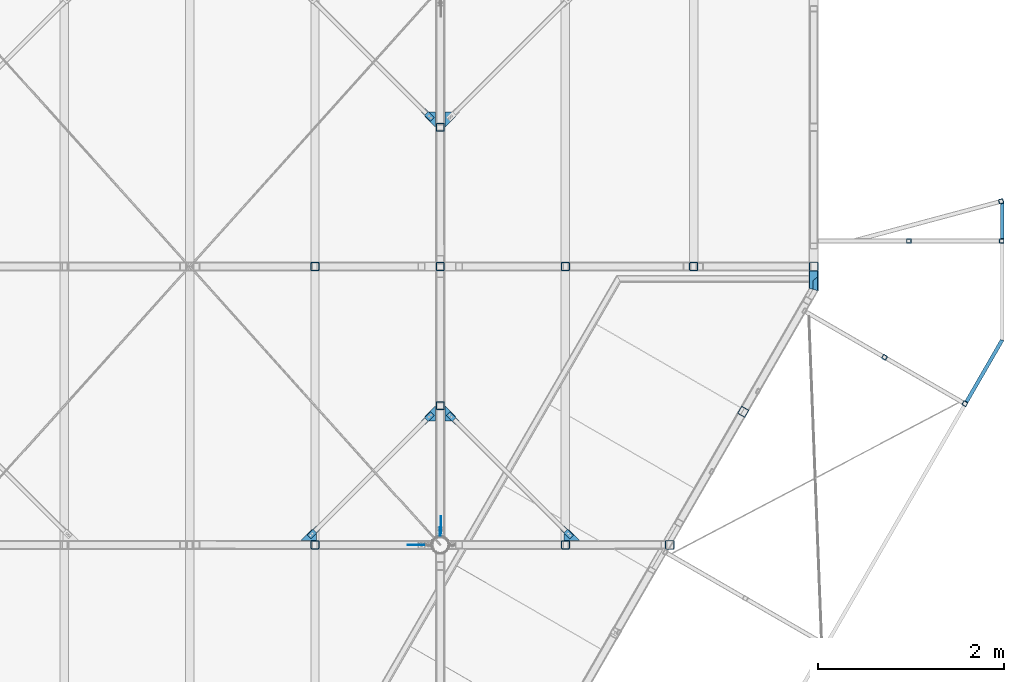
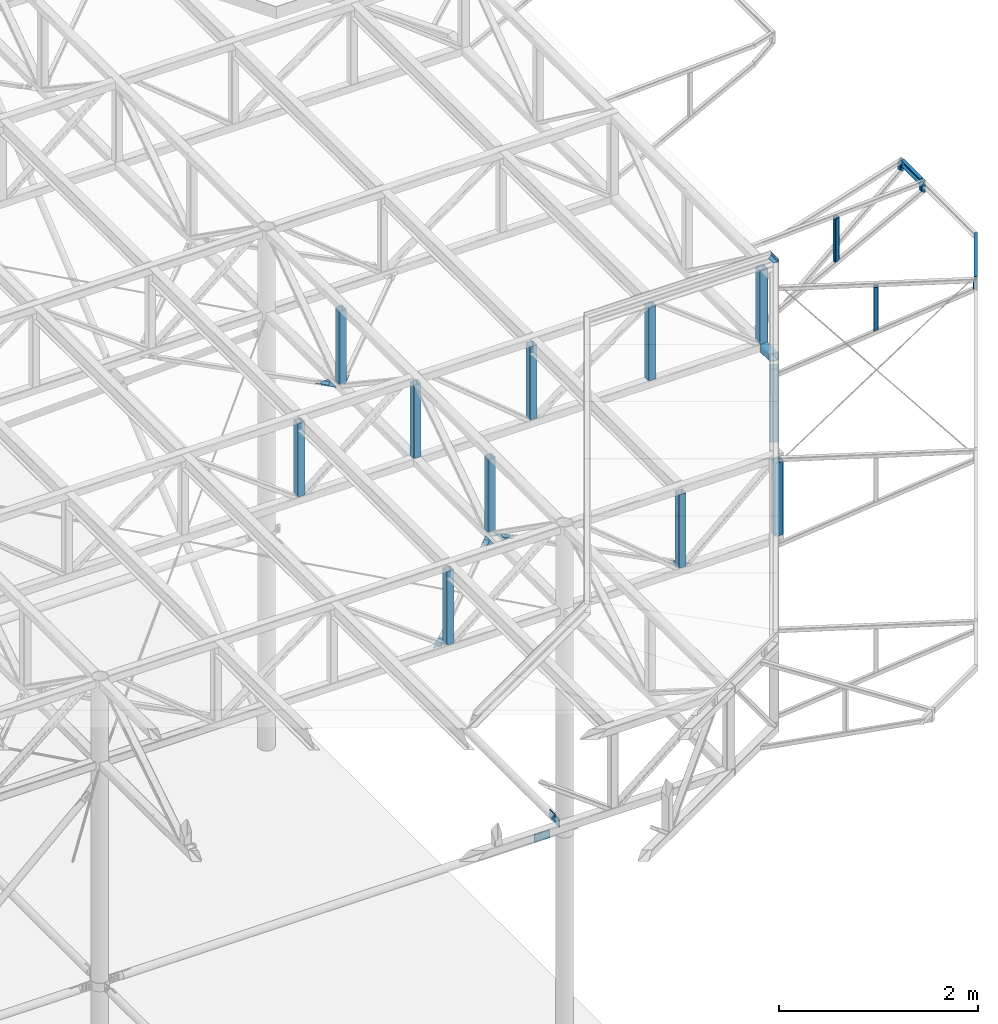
# One storey, part 83 of 132: 34 discrete accessories, 15 elements without a shape of their own.
"""IFC2X3 building model written with IfcOpenShell, lengths in millimetres."""

from ifc_helpers import new_model, si_unit, frame, origin_with_axes, origin_2d_with_axis, place, context, subcontext, project, spatial, polyline, hollow_rectangle, l_section, u_section, outline, extrude, clip, halfspace, material, type_object, element, aggregate, save


model = new_model("IFC2X3")

# Units and contexts
model_context = context("Model", 3, precision=1e-05, world=origin_with_axes())
body_context = subcontext(model_context, "Body", "Model", "MODEL_VIEW")
ifc_project = project(units=[si_unit("LENGTHUNIT", "METRE", prefix="MILLI"), si_unit("AREAUNIT", "SQUARE_METRE"), si_unit("VOLUMEUNIT", "CUBIC_METRE"), si_unit("MASSUNIT", "GRAM", prefix="KILO"), si_unit("TIMEUNIT", "SECOND"), si_unit("PLANEANGLEUNIT", "RADIAN"), si_unit("SOLIDANGLEUNIT", "STERADIAN"), si_unit("THERMODYNAMICTEMPERATUREUNIT", "DEGREE_CELSIUS"), si_unit("LUMINOUSINTENSITYUNIT", "LUMEN")], contexts=[model_context])

# Site, building, storey
site_placement = place(None, origin_with_axes())
site = spatial("IfcSite", under=ifc_project, at=site_placement, Name="Budowa", CompositionType="ELEMENT")
building_placement = place(site_placement, origin_with_axes())
building = spatial("IfcBuilding", under=site, at=building_placement, Name="Undefined", CompositionType="ELEMENT")
storey_placement = place(building_placement, origin_with_axes())
storey = spatial("IfcBuildingStorey", under=building, at=storey_placement, Name="Undefined", CompositionType="ELEMENT", Elevation=0.0)

# Assembly, discrete accessory
assembly_1_placement = place(storey_placement, origin_with_axes())
assembly_1 = element("IfcElementAssembly", 1, at=assembly_1_placement, inside=storey, Name="Steel Assembly", AssemblyPlace="NOTDEFINED", PredefinedType="RIGID_FRAME")
ifc_material = material(Name="STEEL/S235")
discrete_accessory_type_1 = type_object("IfcDiscreteAccessoryType", Name="BLACHA")
discrete_accessory_1_placement = place(assembly_1_placement, frame((20232.9999969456, 6127.90790543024, 10116.0003779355), z_axis=(-1.0, 0.0, 0.0), x_axis=(0.0, 1.0, 0.0)))
discrete_accessory_1 = element("IfcDiscreteAccessory", 2, at=discrete_accessory_1_placement, type_object=discrete_accessory_type_1, material=ifc_material, Name="BLACHA", ObjectType="BL8*100", context=body_context, shape_type="SweptSolid", body=[
    extrude(outline(polyline([(0.0, 50.0), (180.0, 50.0), (180.0, -50.0), (0.0, -50.0), (0.0, 50.0)])), frame((0.0, 0.0, -4.0), z_axis=(0.0, 0.0, 1.0), x_axis=(1.0, 0.0, 0.0)), (0.0, 0.0, 1.0), 8.0),
])
aggregate(assembly_1, [discrete_accessory_1])

assembly_2_placement = place(storey_placement, origin_with_axes())
assembly_2 = element("IfcElementAssembly", 3, at=assembly_2_placement, inside=storey, Name="Steel Assembly", AssemblyPlace="NOTDEFINED", PredefinedType="RIGID_FRAME")
discrete_accessory_2_placement = place(assembly_2_placement, frame((20224.9999969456, 6097.99564346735, 10166.0003762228), z_axis=(1.0, 0.0, 0.0), x_axis=(0.0, 0.0, -1.0)))
discrete_accessory_2 = element("IfcDiscreteAccessory", 4, at=discrete_accessory_2_placement, type_object=discrete_accessory_type_1, material=ifc_material, Name="BLACHA", ObjectType="BL8*90", context=body_context, shape_type="SweptSolid", body=[
    extrude(outline(polyline([(0.0, 0.0), (100.0, 0.0), (100.0, 89.9122619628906), (0.0, 89.9122619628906), (0.0, 0.0)])), frame((0.0, 0.0, -4.0), z_axis=(0.0, 0.0, 1.0), x_axis=(1.0, 0.0, 0.0)), (0.0, 0.0, 1.0), 8.0),
])
aggregate(assembly_2, [discrete_accessory_2])

assembly_3_placement = place(storey_placement, origin_with_axes())
assembly_3 = element("IfcElementAssembly", 5, at=assembly_3_placement, inside=storey, Name="Steel Assembly", AssemblyPlace="NOTDEFINED", PredefinedType="RIGID_FRAME")
discrete_accessory_3_placement = place(assembly_3_placement, frame((20051.8633056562, 5997.99999945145, 10116.0003779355), z_axis=(0.0, 1.0, 0.0), x_axis=(-1.0, 0.0, 0.0)))
discrete_accessory_3 = element("IfcDiscreteAccessory", 6, at=discrete_accessory_3_placement, type_object=discrete_accessory_type_1, material=ifc_material, Name="BLACHA", ObjectType="BL8*100", context=body_context, shape_type="SweptSolid", body=[
    extrude(outline(polyline([(180.0, -50.0), (0.0, -50.0), (0.0, 50.0), (180.0, 50.0), (180.0, -50.0)])), frame((0.0, 0.0, -4.0), z_axis=(0.0, 0.0, 1.0), x_axis=(1.0, 0.0, 0.0)), (0.0, 0.0, 1.0), 8.0),
])
aggregate(assembly_3, [discrete_accessory_3])

assembly_4_placement = place(storey_placement, origin_with_axes())
assembly_4 = element("IfcElementAssembly", 7, at=assembly_4_placement, inside=storey, Name="Steel Assembly", AssemblyPlace="NOTDEFINED", PredefinedType="RIGID_FRAME")
discrete_accessory_4_placement = place(assembly_4_placement, frame((21519.3786419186, 6162.99495131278, 12830.0), z_axis=(0.0, 0.0, 1.0), x_axis=(0.707106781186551, -0.707106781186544, 0.0)))
discrete_accessory_4 = element("IfcDiscreteAccessory", 8, at=discrete_accessory_4_placement, type_object=discrete_accessory_type_1, material=ifc_material, Name="BLACHA", ObjectType="BL6*60", context=body_context, shape_type="SweptSolid", body=[
    extrude(outline(polyline([(0.0, 0.0), (139.99999999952, -6.2755134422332e-10), (139.99999999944, 59.9999999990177), (0.0, 60.0), (-8.00355337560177e-11, 54.9999999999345), (49.9999999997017, 54.9999999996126), (49.9999999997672, 4.99999999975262), (-8.73114913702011e-11, 5.00000000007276), (0.0, 0.0)])), frame((0.0, 0.0, -3.0), z_axis=(0.0, 0.0, 1.0), x_axis=(1.0, 0.0, 0.0)), (0.0, 0.0, 1.0), 6.0),
])

assembly_5_placement = place(storey_placement, origin_with_axes())
assembly_5 = element("IfcElementAssembly", 9, at=assembly_5_placement, inside=storey, Name="Steel Assembly", AssemblyPlace="NOTDEFINED", PredefinedType="RIGID_FRAME")
discrete_accessory_5_placement = place(assembly_5_placement, frame((21558.2695167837, 6050.00000004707, 12824.0), z_axis=(0.0, 0.0, 1.0), x_axis=(1.0, 0.0, 0.0)))
discrete_accessory_5 = element("IfcDiscreteAccessory", 10, at=discrete_accessory_5_placement, type_object=discrete_accessory_type_1, material=ifc_material, Name="BLACHA", ObjectType="BL6*117", context=body_context, shape_type="SweptSolid", body=[
    extrude(outline(polyline([(0.0, 0.0), (166.027954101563, 0.0), (49.4974746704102, 116.530487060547), (0.0, 67.0330123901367), (0.0, 0.0)])), frame((0.0, 0.0, -3.0), z_axis=(0.0, 0.0, 1.0), x_axis=(1.0, 0.0, 0.0)), (0.0, 0.0, 1.0), 6.0),
])

# Discrete accessory
discrete_accessory_6_placement = place(assembly_4_placement, frame((20430.4213581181, 7336.80504885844, 12830.0), z_axis=(0.0, 0.0, 1.0), x_axis=(-0.707106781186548, 0.707106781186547, 0.0)))
discrete_accessory_6 = element("IfcDiscreteAccessory", 11, at=discrete_accessory_6_placement, type_object=discrete_accessory_type_1, material=ifc_material, Name="BLACHA", ObjectType="BL6*60", context=body_context, shape_type="SweptSolid", body=[
    extrude(outline(polyline([(0.0, 0.0), (139.99999999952, -6.2755134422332e-10), (139.99999999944, 59.9999999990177), (0.0, 60.0), (-8.00355337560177e-11, 54.9999999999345), (49.9999999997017, 54.9999999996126), (49.9999999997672, 4.99999999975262), (-8.73114913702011e-11, 5.00000000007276), (0.0, 0.0)])), frame((0.0, 0.0, -3.0), z_axis=(0.0, 0.0, 1.0), x_axis=(1.0, 0.0, 0.0)), (0.0, 0.0, 1.0), 6.0),
])

aggregate(assembly_4, [discrete_accessory_4, discrete_accessory_6])

# Assembly, discrete accessory
assembly_6_placement = place(storey_placement, origin_with_axes())
assembly_6 = element("IfcElementAssembly", 12, at=assembly_6_placement, inside=storey, Name="Steel Assembly", AssemblyPlace="NOTDEFINED", PredefinedType="RIGID_FRAME")
discrete_accessory_7_placement = place(assembly_6_placement, frame((20275.0, 7499.2974747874, 12824.0), z_axis=(0.0, 0.0, 1.0), x_axis=(0.0, -1.0, 0.0)))
discrete_accessory_7 = element("IfcDiscreteAccessory", 13, at=discrete_accessory_7_placement, type_object=discrete_accessory_type_1, material=ifc_material, Name="BLACHA", ObjectType="BL6*117", context=body_context, shape_type="SweptSolid", body=[
    extrude(outline(polyline([(0.0, 0.0), (166.027954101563, 0.0), (166.027954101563, 67.0330123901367), (116.530487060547, 116.530487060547), (0.0, 0.0)])), frame((0.0, 0.0, -3.0), z_axis=(0.0, 0.0, 1.0), x_axis=(1.0, 0.0, 0.0)), (0.0, 0.0, 1.0), 6.0),
])

assembly_7_placement = place(storey_placement, origin_with_axes())
assembly_7 = element("IfcElementAssembly", 14, at=assembly_7_placement, inside=storey, Name="Steel Assembly", AssemblyPlace="NOTDEFINED", PredefinedType="RIGID_FRAME")
discrete_accessory_8_placement = place(assembly_7_placement, frame((18888.1949511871, 6205.42135816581, 12830.0), z_axis=(0.0, 0.0, 1.0), x_axis=(-0.70710678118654, -0.707106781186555, 0.0)))
discrete_accessory_8 = element("IfcDiscreteAccessory", 15, at=discrete_accessory_8_placement, type_object=discrete_accessory_type_1, material=ifc_material, Name="BLACHA", ObjectType="BL6*60", context=body_context, shape_type="SweptSolid", body=[
    extrude(outline(polyline([(0.0, 0.0), (139.99999999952, -6.2755134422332e-10), (139.99999999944, 59.9999999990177), (0.0, 60.0), (-8.00355337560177e-11, 54.9999999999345), (49.9999999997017, 54.9999999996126), (49.9999999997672, 4.99999999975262), (-8.73114913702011e-11, 5.00000000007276), (0.0, 0.0)])), frame((0.0, 0.0, -3.0), z_axis=(0.0, 0.0, 1.0), x_axis=(1.0, 0.0, 0.0)), (0.0, 0.0, 1.0), 6.0),
])

assembly_8_placement = place(storey_placement, origin_with_axes())
assembly_8 = element("IfcElementAssembly", 16, at=assembly_8_placement, inside=storey, Name="Steel Assembly", AssemblyPlace="NOTDEFINED", PredefinedType="RIGID_FRAME")
discrete_accessory_9_placement = place(assembly_8_placement, frame((18725.7025252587, 6050.00000004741, 12824.0), z_axis=(0.0, 0.0, 1.0), x_axis=(1.0, 0.0, 0.0)))
discrete_accessory_9 = element("IfcDiscreteAccessory", 17, at=discrete_accessory_9_placement, type_object=discrete_accessory_type_1, material=ifc_material, Name="BLACHA", ObjectType="BL6*117", context=body_context, shape_type="SweptSolid", body=[
    extrude(outline(polyline([(0.0, 0.0), (166.027954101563, 0.0), (166.027954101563, 67.0330123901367), (116.530487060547, 116.530487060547), (0.0, 0.0)])), frame((0.0, 0.0, -3.0), z_axis=(0.0, 0.0, 1.0), x_axis=(1.0, 0.0, 0.0)), (0.0, 0.0, 1.0), 6.0),
])

# Discrete accessory
discrete_accessory_10_placement = place(assembly_7_placement, frame((20062.0050487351, 7294.37864196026, 12830.0), z_axis=(0.0, 0.0, 1.0), x_axis=(0.707106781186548, 0.707106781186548, 0.0)))
discrete_accessory_10 = element("IfcDiscreteAccessory", 18, at=discrete_accessory_10_placement, type_object=discrete_accessory_type_1, material=ifc_material, Name="BLACHA", ObjectType="BL6*60", context=body_context, shape_type="SweptSolid", body=[
    extrude(outline(polyline([(0.0, 0.0), (139.99999999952, -6.2755134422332e-10), (139.99999999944, 59.9999999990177), (0.0, 60.0), (-8.00355337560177e-11, 54.9999999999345), (49.9999999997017, 54.9999999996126), (49.9999999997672, 4.99999999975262), (-8.73114913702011e-11, 5.00000000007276), (0.0, 0.0)])), frame((0.0, 0.0, -3.0), z_axis=(0.0, 0.0, 1.0), x_axis=(1.0, 0.0, 0.0)), (0.0, 0.0, 1.0), 6.0),
])

aggregate(assembly_7, [discrete_accessory_8, discrete_accessory_10])

discrete_accessory_11_placement = place(assembly_6_placement, frame((20175.0, 7333.26951682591, 12824.0), z_axis=(0.0, 0.0, 1.0), x_axis=(0.0, 1.0, 0.0)))
discrete_accessory_11 = element("IfcDiscreteAccessory", 19, at=discrete_accessory_11_placement, type_object=discrete_accessory_type_1, material=ifc_material, Name="BLACHA", ObjectType="BL6*117", context=body_context, shape_type="SweptSolid", body=[
    extrude(outline(polyline([(0.0, 0.0), (166.027954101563, 0.0), (49.4974746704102, 116.530487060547), (0.0, 67.0330123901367), (0.0, 0.0)])), frame((0.0, 0.0, -3.0), z_axis=(0.0, 0.0, 1.0), x_axis=(1.0, 0.0, 0.0)), (0.0, 0.0, 1.0), 6.0),
])

discrete_accessory_12_placement = place(assembly_6_placement, frame((20275.0, 10666.5304833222, 12824.0), z_axis=(0.0, 0.0, 1.0), x_axis=(0.0, -1.0, 0.0)))
discrete_accessory_12 = element("IfcDiscreteAccessory", 20, at=discrete_accessory_12_placement, type_object=discrete_accessory_type_1, material=ifc_material, Name="BLACHA", ObjectType="BL6*117", context=body_context, shape_type="SweptSolid", body=[
    extrude(outline(polyline([(0.0, 0.0), (166.027954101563, 0.0), (49.4974746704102, 116.530487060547), (0.0, 67.0330123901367), (0.0, 0.0)])), frame((0.0, 0.0, -3.0), z_axis=(0.0, 0.0, 1.0), x_axis=(1.0, 0.0, 0.0)), (0.0, 0.0, 1.0), 6.0),
])

# Assembly, discrete accessory
assembly_9_placement = place(storey_placement, origin_with_axes())
assembly_9 = element("IfcElementAssembly", 21, at=assembly_9_placement, inside=storey, Name="Steel Assembly", AssemblyPlace="NOTDEFINED", PredefinedType="RIGID_FRAME")
discrete_accessory_13_placement = place(assembly_9_placement, frame((20019.5786418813, 10662.9949512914, 12830.0), z_axis=(0.0, 0.0, 1.0), x_axis=(0.707106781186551, -0.707106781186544, 0.0)))
discrete_accessory_13 = element("IfcDiscreteAccessory", 22, at=discrete_accessory_13_placement, type_object=discrete_accessory_type_1, material=ifc_material, Name="BLACHA", ObjectType="BL6*60", context=body_context, shape_type="SweptSolid", body=[
    extrude(outline(polyline([(0.0, 0.0), (139.99999999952, -6.2755134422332e-10), (139.99999999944, 59.9999999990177), (0.0, 60.0), (-8.00355337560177e-11, 54.9999999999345), (49.9999999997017, 54.9999999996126), (49.9999999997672, 4.99999999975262), (-8.73114913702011e-11, 5.00000000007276), (0.0, 0.0)])), frame((0.0, 0.0, -3.0), z_axis=(0.0, 0.0, 1.0), x_axis=(1.0, 0.0, 0.0)), (0.0, 0.0, 1.0), 6.0),
])
aggregate(assembly_9, [discrete_accessory_13])

# Discrete accessory
discrete_accessory_14_placement = place(assembly_6_placement, frame((20175.0, 10500.5025253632, 12824.0), z_axis=(0.0, 0.0, 1.0), x_axis=(0.0, 1.0, 0.0)))
discrete_accessory_14 = element("IfcDiscreteAccessory", 23, at=discrete_accessory_14_placement, type_object=discrete_accessory_type_1, material=ifc_material, Name="BLACHA", ObjectType="BL6*117", context=body_context, shape_type="SweptSolid", body=[
    extrude(outline(polyline([(0.0, 0.0), (166.027954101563, 0.0), (166.027954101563, 67.0330123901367), (116.530487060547, 116.530487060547), (0.0, 0.0)])), frame((0.0, 0.0, -3.0), z_axis=(0.0, 0.0, 1.0), x_axis=(1.0, 0.0, 0.0)), (0.0, 0.0, 1.0), 6.0),
])

# Assembly, discrete accessory
assembly_10_placement = place(storey_placement, origin_with_axes())
assembly_10 = element("IfcElementAssembly", 24, at=assembly_10_placement, inside=storey, Name="Steel Assembly", AssemblyPlace="NOTDEFINED", PredefinedType="RIGID_FRAME")
discrete_accessory_type_2 = type_object("IfcDiscreteAccessoryType", Name="BEAM")
discrete_accessory_15_placement = place(assembly_10_placement, frame((24270.0003571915, 8737.71824982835, 14004.0), z_axis=(-1.0, 0.0, 0.0), x_axis=(0.0, 1.0, 0.0)))
discrete_accessory_15 = element("IfcDiscreteAccessory", 25, at=discrete_accessory_15_placement, type_object=discrete_accessory_type_2, material=ifc_material, Name="BEAM", ObjectType="L60*40*6", context=body_context, shape_type="Clipping", body=[
    clip(clip(extrude(l_section(Depth=60.0, Width=40.0, Thickness=6.0, FilletRadius=6.0, EdgeRadius=3.0, at=origin_2d_with_axis()), frame((166.650860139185, 0.0, 0.0), z_axis=(-1.0, 0.0, 0.0), x_axis=(0.0, -1.0, 0.0)), (0.0, 0.0, 1.0), 191.98), halfspace(frame((108.28175011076, 39.0, 30.0), z_axis=(-0.768221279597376, 0.0, -0.64018439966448), x_axis=(0.0, -1.0, 0.0)), True)), halfspace(frame((16.0774455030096, 0.0, 30.0000000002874), z_axis=(-0.96592383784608, 0.0, 0.258826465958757), x_axis=(0.0, -1.0, 0.0)), False)),
])
aggregate(assembly_10, [discrete_accessory_15])

# Assembly, discrete accessories
assembly_11_placement = place(storey_placement, origin_with_axes())
assembly_11 = element("IfcElementAssembly", 26, at=assembly_11_placement, inside=storey, Name="Steel Assembly", AssemblyPlace="NOTDEFINED", PredefinedType="RIGID_FRAME")
discrete_accessory_16_placement = place(assembly_11_placement, frame((26280.0003814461, 8900.11302250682, 13945.0052016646), z_axis=(0.0, 0.00322921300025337, -0.999994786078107), x_axis=(0.0, 0.999994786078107, 0.00322921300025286)))
discrete_accessory_16 = element("IfcDiscreteAccessory", 27, at=discrete_accessory_16_placement, type_object=discrete_accessory_type_2, material=ifc_material, Name="BEAM", ObjectType="C70*40*4", context=body_context, shape_type="Clipping", body=[
    clip(clip(extrude(u_section(Depth=70.0, FlangeWidth=40.0, WebThickness=4.0, FlangeThickness=4.0, FilletRadius=6.0, at=origin_2d_with_axis()), frame((779.548640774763, 0.0, 0.0), z_axis=(-1.0, 0.0, 0.0), x_axis=(0.0, -1.0, 0.0)), (0.0, 0.0, 1.0), 379.62), halfspace(frame((784.511873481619, 6.47047612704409, -1000.07276558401), z_axis=(-0.965920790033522, 0.258819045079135, -0.00311918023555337), x_axis=(0.258817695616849, 0.965925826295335, 0.000835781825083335)), True)), halfspace(frame((403.161566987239, 2.5465851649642e-11, -999.914055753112), z_axis=(0.999994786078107, 0.0, 0.00322921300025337), x_axis=(0.0, -1.0, 0.0)), True)),
])
discrete_accessory_17_placement = place(assembly_11_placement, frame((25895.3331330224, 7541.03026147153, 13945.0050192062), z_axis=(0.0, 0.0, -1.0), x_axis=(0.499968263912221, 0.86604372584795, 0.0)))
discrete_accessory_17 = element("IfcDiscreteAccessory", 28, at=discrete_accessory_17_placement, type_object=discrete_accessory_type_2, material=ifc_material, Name="BEAM", ObjectType="C70*40*4", context=body_context, shape_type="Clipping", body=[
    clip(extrude(u_section(Depth=70.0, FlangeWidth=40.0, WebThickness=4.0, FlangeThickness=4.0, FilletRadius=6.0, at=origin_2d_with_axis()), frame((801.662845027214, -3.63797880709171e-12, -1.81898940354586e-12), z_axis=(-1.0, 0.0, 0.0), x_axis=(0.0, -1.0, 0.0)), (0.0, 0.0, 1.0), 801.66), halfspace(frame((774.741922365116, 20.0000000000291, -1.81898940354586e-12), z_axis=(0.965930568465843, -0.258801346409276, 0.0), x_axis=(0.0, 0.0, -1.0)), False)),
])
discrete_accessory_18_placement = place(assembly_11_placement, frame((26269.3817595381, 9702.69425212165, 13982.2132943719), z_axis=(-0.258819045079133, 0.965925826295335, 0.0), x_axis=(0.0, 0.0, -1.0)))
discrete_accessory_18 = element("IfcDiscreteAccessory", 29, at=discrete_accessory_18_placement, type_object=discrete_accessory_type_2, material=ifc_material, Name="BEAM", ObjectType="SHS50*4", context=body_context, shape_type="Clipping", body=[
    clip(clip(extrude(hollow_rectangle(XDim=50.0, YDim=50.0, WallThickness=4.0, InnerFilletRadius=4.0, OuterFilletRadius=8.0, at=origin_2d_with_axis()), frame((176.697426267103, 0.0, 0.0), z_axis=(-1.0, 0.0, 0.0), x_axis=(0.0, -1.0, 0.0)), (0.0, 0.0, 1.0), 192.46), halfspace(frame((149.999998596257, -25.0000000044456, 4.06544131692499e-09), z_axis=(0.852359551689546, 0.522956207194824, 0.0), x_axis=(0.0, 0.0, 1.0)), False)), halfspace(frame((-0.00517941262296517, -25.0000000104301, 1.04982973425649e-08), z_axis=(-0.689225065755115, 0.724547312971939, 0.0), x_axis=(0.0, 0.0, -1.0)), False)),
])
discrete_accessory_19_placement = place(assembly_11_placement, frame((25275.0003814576, 9275.04355197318, 13878.9400283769), z_axis=(0.0, 1.0, 0.0), x_axis=(0.0, 0.0, -1.0)))
discrete_accessory_19 = element("IfcDiscreteAccessory", 30, at=discrete_accessory_19_placement, type_object=discrete_accessory_type_2, material=ifc_material, Name="BEAM", ObjectType="SHS50*4", context=body_context, shape_type="Clipping", body=[
    clip(clip(extrude(hollow_rectangle(XDim=50.0, YDim=50.0, WallThickness=4.0, InnerFilletRadius=4.0, OuterFilletRadius=8.0, at=origin_2d_with_axis()), frame((545.085010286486, 0.0, 0.0), z_axis=(-1.0, 0.0, 0.0), x_axis=(0.0, -1.0, 0.0)), (0.0, 0.0, 1.0), 559.36), halfspace(frame((536.667324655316, 11.6203888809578, 999.999999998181), z_axis=(-0.885407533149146, 0.464815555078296, 0.0), x_axis=(-0.464815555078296, -0.885407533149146, 0.0)), True)), halfspace(frame((0.185048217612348, -1.24844042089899, 999.999999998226), z_axis=(0.998752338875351, -0.0499376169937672, 0.0), x_axis=(0.0499376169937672, 0.998752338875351, 0.0)), True)),
])
discrete_accessory_20_placement = place(assembly_11_placement, frame((26275.0003814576, 9275.04355197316, 13979.9998397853), z_axis=(0.0, 1.0, 0.0), x_axis=(0.0, 0.0, -1.0)))
discrete_accessory_20 = element("IfcDiscreteAccessory", 31, at=discrete_accessory_20_placement, type_object=discrete_accessory_type_2, material=ifc_material, Name="BEAM", ObjectType="SHS50*4", context=body_context, shape_type="Clipping", body=[
    clip(clip(extrude(hollow_rectangle(XDim=50.0, YDim=50.0, WallThickness=4.0, InnerFilletRadius=4.0, OuterFilletRadius=8.0, at=origin_2d_with_axis()), frame((176.695154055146, 0.0, 0.0), z_axis=(-1.0, 0.0, 0.0), x_axis=(0.0, -1.0, 0.0)), (0.0, 0.0, 1.0), 192.23), halfspace(frame((149.999998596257, -25.0000000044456, 4.06544131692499e-09), z_axis=(0.855808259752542, 0.517293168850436, 0.0), x_axis=(0.0, 0.0, 1.0)), False)), halfspace(frame((-0.00517941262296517, -25.0000000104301, 1.04982973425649e-08), z_axis=(-0.689225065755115, 0.724547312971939, 0.0), x_axis=(0.0, 0.0, -1.0)), False)),
])
aggregate(assembly_11, [discrete_accessory_16, discrete_accessory_17, discrete_accessory_18, discrete_accessory_19, discrete_accessory_20])

assembly_12_placement = place(storey_placement, origin_with_axes())
assembly_12 = element("IfcElementAssembly", 32, at=assembly_12_placement, inside=storey, Name="Steel Assembly", AssemblyPlace="NOTDEFINED", PredefinedType="RIGID_FRAME")
discrete_accessory_21_placement = place(assembly_12_placement, frame((25012.4609035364, 8021.84896381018, 13878.94002838), z_axis=(-0.499969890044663, -0.866042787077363, 0.0), x_axis=(0.0, 0.0, -1.0)))
discrete_accessory_21 = element("IfcDiscreteAccessory", 33, at=discrete_accessory_21_placement, type_object=discrete_accessory_type_2, material=ifc_material, Name="BEAM", ObjectType="SHS50*4", context=body_context, shape_type="Clipping", body=[
    clip(clip(extrude(hollow_rectangle(XDim=50.0, YDim=50.0, WallThickness=4.0, InnerFilletRadius=4.0, OuterFilletRadius=8.0, at=origin_2d_with_axis()), frame((545.085010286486, 0.0, 0.0), z_axis=(-1.0, 0.0, 0.0), x_axis=(0.0, -1.0, 0.0)), (0.0, 0.0, 1.0), 559.36), halfspace(frame((536.667324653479, -11.620388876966, 1000.0), z_axis=(-0.885407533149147, -0.464815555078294, 0.0), x_axis=(0.464815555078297, -0.885407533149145, 0.0)), True)), halfspace(frame((0.185048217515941, 1.24844042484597, 1000.0), z_axis=(0.998752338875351, 0.0499376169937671, 0.0), x_axis=(-0.0499376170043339, 0.998752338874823, 2.09020387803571e-11)), True)),
])
discrete_accessory_22_placement = place(assembly_12_placement, frame((25878.5036906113, 7521.87907376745, 13979.9998397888), z_axis=(-0.499969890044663, -0.866042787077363, 0.0), x_axis=(0.0, 0.0, -1.0)))
discrete_accessory_22 = element("IfcDiscreteAccessory", 34, at=discrete_accessory_22_placement, type_object=discrete_accessory_type_2, material=ifc_material, Name="BEAM", ObjectType="SHS50*4", context=body_context, shape_type="Clipping", body=[
    clip(clip(extrude(hollow_rectangle(XDim=50.0, YDim=50.0, WallThickness=4.0, InnerFilletRadius=4.0, OuterFilletRadius=8.0, at=origin_2d_with_axis()), frame((176.695154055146, 0.0, 0.0), z_axis=(-1.0, 0.0, 0.0), x_axis=(0.0, -1.0, 0.0)), (0.0, 0.0, 1.0), 192.23), halfspace(frame((149.999998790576, 25.0, 0.0), z_axis=(0.855808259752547, -0.517293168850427, 0.0), x_axis=(0.0, 0.0, -1.0)), False)), halfspace(frame((-0.00517939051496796, 25.0, 0.0), z_axis=(-0.689225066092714, -0.724547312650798, 2.88487317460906e-10), x_axis=(0.0, 0.0, 1.0)), False)),
])
aggregate(assembly_12, [discrete_accessory_21, discrete_accessory_22])

assembly_13_placement = place(storey_placement, origin_with_axes())
assembly_13 = element("IfcElementAssembly", 35, at=assembly_13_placement, inside=storey, Name="Steel Assembly", AssemblyPlace="NOTDEFINED", PredefinedType="RIGID_FRAME")
discrete_accessory_23_placement = place(assembly_13_placement, frame((23489.6987886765, 7434.23488026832, 12880.0), z_axis=(0.0, 0.0, 1.0), x_axis=(0.5000000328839, 0.866025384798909, 0.0)))
discrete_accessory_23 = element("IfcDiscreteAccessory", 36, at=discrete_accessory_23_placement, type_object=discrete_accessory_type_2, material=ifc_material, Name="BEAM", ObjectType="SHS90*4", context=body_context, shape_type="Clipping", body=[
    clip(clip(extrude(hollow_rectangle(XDim=90.0, YDim=90.0, WallThickness=4.0, InnerFilletRadius=4.0, OuterFilletRadius=8.0, at=origin_2d_with_axis()), frame((0.0, 0.0, 900.0), z_axis=(0.0, 0.0, -1.0), x_axis=(0.0, 1.0, 0.0)), (0.0, 0.0, 1.0), 900.0), halfspace(frame((1000.0, 0.0, 900.0), z_axis=(0.0, 0.0, -1.0), x_axis=(0.0, 1.0, 0.0)), True)), halfspace(frame((1000.0, 0.0, 0.0), z_axis=(0.0, 0.0, 1.0), x_axis=(0.0, -1.0, 0.0)), True)),
])
discrete_accessory_24_placement = place(assembly_13_placement, frame((24250.000107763, 8737.71781926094, 12830.0), z_axis=(1.0, 0.0, 0.0), x_axis=(0.0, 1.0, 0.0)))
discrete_accessory_24 = element("IfcDiscreteAccessory", 37, at=discrete_accessory_24_placement, type_object=discrete_accessory_type_2, material=ifc_material, Name="BEAM", ObjectType="SHS100*8", context=body_context, shape_type="Clipping", body=[
    clip(extrude(hollow_rectangle(XDim=100.0, YDim=100.0, WallThickness=8.0, InnerFilletRadius=8.0, OuterFilletRadius=16.0, at=origin_2d_with_axis()), frame((212.282180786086, 0.0, 0.0), z_axis=(-1.0, 0.0, 0.0), x_axis=(0.0, -1.0, 0.0)), (0.0, 0.0, 1.0), 212.42), halfspace(frame((-1.38836367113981e-06, 0.0, 50.0), z_axis=(0.965925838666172, 0.0, 0.258818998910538), x_axis=(0.0, 1.0, 0.0)), True)),
])
aggregate(assembly_13, [discrete_accessory_23, discrete_accessory_24])

# Discrete accessory
discrete_accessory_25_placement = place(assembly_5_placement, frame((21573.9, 6000.00000004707, 13780.0), z_axis=(-1.0, 0.0, 0.0), x_axis=(0.0, 0.0, -1.0)))
discrete_accessory_25 = element("IfcDiscreteAccessory", 38, at=discrete_accessory_25_placement, type_object=discrete_accessory_type_2, material=ifc_material, Name="BEAM", ObjectType="SHS90*6", context=body_context, shape_type="Clipping", body=[
    clip(clip(extrude(hollow_rectangle(XDim=90.0, YDim=90.0, WallThickness=6.0, InnerFilletRadius=6.0, OuterFilletRadius=12.0, at=origin_2d_with_axis()), frame((900.0, 0.0, 0.0), z_axis=(-1.0, 0.0, 0.0), x_axis=(0.0, -1.0, 0.0)), (0.0, 0.0, 1.0), 900.0), halfspace(frame((900.0, 0.0, 1000.0), z_axis=(-1.0, 0.0, 0.0), x_axis=(0.0, -1.0, 0.0)), True)), halfspace(frame((0.0, 0.0, 1000.0), z_axis=(1.0, 0.0, 0.0), x_axis=(0.0, 1.0, 0.0)), True)),
])

discrete_accessory_26_placement = place(assembly_5_placement, frame((22697.9, 6000.00000004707, 13780.0), z_axis=(-1.0, 0.0, 0.0), x_axis=(0.0, 0.0, -1.0)))
discrete_accessory_26 = element("IfcDiscreteAccessory", 39, at=discrete_accessory_26_placement, type_object=discrete_accessory_type_2, material=ifc_material, Name="BEAM", ObjectType="SHS100*8", context=body_context, shape_type="Clipping", body=[
    clip(clip(extrude(hollow_rectangle(XDim=100.0, YDim=100.0, WallThickness=8.0, InnerFilletRadius=8.0, OuterFilletRadius=16.0, at=origin_2d_with_axis()), frame((900.0, 0.0, 0.0), z_axis=(-1.0, 0.0, 0.0), x_axis=(0.0, -1.0, 0.0)), (0.0, 0.0, 1.0), 900.0), halfspace(frame((900.0, 0.0, 1000.0), z_axis=(-1.0, 0.0, 0.0), x_axis=(0.0, -1.0, 0.0)), True)), halfspace(frame((0.0, 0.0, 1000.0), z_axis=(1.0, 0.0, 0.0), x_axis=(0.0, 1.0, 0.0)), True)),
])

aggregate(assembly_5, [discrete_accessory_5, discrete_accessory_25, discrete_accessory_26])

# Assembly, discrete accessories
assembly_14_placement = place(storey_placement, origin_with_axes())
assembly_14 = element("IfcElementAssembly", 40, at=assembly_14_placement, inside=storey, Name="Steel Assembly", AssemblyPlace="NOTDEFINED", PredefinedType="RIGID_FRAME")
discrete_accessory_27_placement = place(assembly_14_placement, frame((21573.9, 9000.00000004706, 13780.0), z_axis=(-1.0, 0.0, 0.0), x_axis=(0.0, 0.0, -1.0)))
discrete_accessory_27 = element("IfcDiscreteAccessory", 41, at=discrete_accessory_27_placement, type_object=discrete_accessory_type_2, material=ifc_material, Name="BEAM", ObjectType="SHS90*6", context=body_context, shape_type="Clipping", body=[
    clip(clip(extrude(hollow_rectangle(XDim=90.0, YDim=90.0, WallThickness=6.0, InnerFilletRadius=6.0, OuterFilletRadius=12.0, at=origin_2d_with_axis()), frame((900.0, 0.0, 0.0), z_axis=(-1.0, 0.0, 0.0), x_axis=(0.0, -1.0, 0.0)), (0.0, 0.0, 1.0), 900.0), halfspace(frame((900.0, 0.0, 1000.0), z_axis=(-1.0, 0.0, 0.0), x_axis=(0.0, -1.0, 0.0)), True)), halfspace(frame((0.0, 0.0, 1000.0), z_axis=(1.0, 0.0, 0.0), x_axis=(0.0, 1.0, 0.0)), True)),
])
discrete_accessory_28_placement = place(assembly_14_placement, frame((22954.9, 9000.00000004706, 13780.0), z_axis=(-1.0, 0.0, 0.0), x_axis=(0.0, 0.0, -1.0)))
discrete_accessory_28 = element("IfcDiscreteAccessory", 42, at=discrete_accessory_28_placement, type_object=discrete_accessory_type_2, material=ifc_material, Name="BEAM", ObjectType="SHS90*6", context=body_context, shape_type="Clipping", body=[
    clip(clip(extrude(hollow_rectangle(XDim=90.0, YDim=90.0, WallThickness=6.0, InnerFilletRadius=6.0, OuterFilletRadius=12.0, at=origin_2d_with_axis()), frame((900.0, 0.0, 0.0), z_axis=(-1.0, 0.0, 0.0), x_axis=(0.0, -1.0, 0.0)), (0.0, 0.0, 1.0), 900.0), halfspace(frame((900.0, 0.0, 1000.0), z_axis=(-1.0, 0.0, 0.0), x_axis=(0.0, -1.0, 0.0)), True)), halfspace(frame((0.0, 0.0, 1000.0), z_axis=(1.0, 0.0, 0.0), x_axis=(0.0, 1.0, 0.0)), True)),
])
discrete_accessory_29_placement = place(assembly_14_placement, frame((24249.9, 9000.00000004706, 13780.0), z_axis=(-1.0, 0.0, 0.0), x_axis=(0.0, 0.0, -1.0)))
discrete_accessory_29 = element("IfcDiscreteAccessory", 43, at=discrete_accessory_29_placement, type_object=discrete_accessory_type_2, material=ifc_material, Name="BEAM", ObjectType="SHS100*8", context=body_context, shape_type="Clipping", body=[
    clip(clip(extrude(hollow_rectangle(XDim=100.0, YDim=100.0, WallThickness=8.0, InnerFilletRadius=8.0, OuterFilletRadius=16.0, at=origin_2d_with_axis()), frame((900.0, 0.0, 0.0), z_axis=(-1.0, 0.0, 0.0), x_axis=(0.0, -1.0, 0.0)), (0.0, 0.0, 1.0), 900.0), halfspace(frame((900.0, 0.0, 1000.0), z_axis=(-1.0, 0.0, 0.0), x_axis=(0.0, -1.0, 0.0)), True)), halfspace(frame((0.0, 0.0, 1000.0), z_axis=(1.0, 0.0, 0.0), x_axis=(0.0, 1.0, 0.0)), True)),
])
aggregate(assembly_14, [discrete_accessory_27, discrete_accessory_28, discrete_accessory_29])

# Assembly, discrete accessory
assembly_15_placement = place(storey_placement, origin_with_axes())
assembly_15 = element("IfcElementAssembly", 44, at=assembly_15_placement, inside=storey, Name="Steel Assembly", AssemblyPlace="NOTDEFINED", PredefinedType="RIGID_FRAME")
discrete_accessory_30_placement = place(assembly_15_placement, frame((18874.9999999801, 9000.00000004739, 13780.0), z_axis=(0.0, -1.0, 0.0), x_axis=(0.0, 0.0, -1.0)))
discrete_accessory_30 = element("IfcDiscreteAccessory", 45, at=discrete_accessory_30_placement, type_object=discrete_accessory_type_2, material=ifc_material, Name="BEAM", ObjectType="SHS90*6", context=body_context, shape_type="Clipping", body=[
    clip(clip(extrude(hollow_rectangle(XDim=90.0, YDim=90.0, WallThickness=6.0, InnerFilletRadius=6.0, OuterFilletRadius=12.0, at=origin_2d_with_axis()), frame((900.0, 0.0, 0.0), z_axis=(-1.0, 0.0, 0.0), x_axis=(0.0, -1.0, 0.0)), (0.0, 0.0, 1.0), 900.0), halfspace(frame((900.0, 0.0, 1000.0), z_axis=(-1.0, 0.0, 0.0), x_axis=(0.0, -1.0, 0.0)), True)), halfspace(frame((0.0, 0.0, 1000.0), z_axis=(1.0, 0.0, 0.0), x_axis=(0.0, 1.0, 0.0)), True)),
])
aggregate(assembly_15, [discrete_accessory_30])

# Discrete accessory
discrete_accessory_31_placement = place(assembly_6_placement, frame((20225.0, 10500.0000000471, 13780.0), z_axis=(1.0, 0.0, 0.0), x_axis=(0.0, 0.0, -1.0)))
discrete_accessory_31 = element("IfcDiscreteAccessory", 46, at=discrete_accessory_31_placement, type_object=discrete_accessory_type_2, material=ifc_material, Name="BEAM", ObjectType="SHS90*6", context=body_context, shape_type="Clipping", body=[
    clip(clip(extrude(hollow_rectangle(XDim=90.0, YDim=90.0, WallThickness=6.0, InnerFilletRadius=6.0, OuterFilletRadius=12.0, at=origin_2d_with_axis()), frame((900.0, 0.0, 0.0), z_axis=(-1.0, 0.0, 0.0), x_axis=(0.0, -1.0, 0.0)), (0.0, 0.0, 1.0), 900.0), halfspace(frame((900.0, 0.0, 1000.0), z_axis=(-1.0, 0.0, 0.0), x_axis=(0.0, -1.0, 0.0)), True)), halfspace(frame((0.0, 0.0, 1000.0), z_axis=(1.0, 0.0, 0.0), x_axis=(0.0, 1.0, 0.0)), True)),
])

discrete_accessory_32_placement = place(assembly_6_placement, frame((20225.0, 7500.00000004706, 13780.0), z_axis=(1.0, 0.0, 0.0), x_axis=(0.0, 0.0, -1.0)))
discrete_accessory_32 = element("IfcDiscreteAccessory", 47, at=discrete_accessory_32_placement, type_object=discrete_accessory_type_2, material=ifc_material, Name="BEAM", ObjectType="SHS90*6", context=body_context, shape_type="Clipping", body=[
    clip(clip(extrude(hollow_rectangle(XDim=90.0, YDim=90.0, WallThickness=6.0, InnerFilletRadius=6.0, OuterFilletRadius=12.0, at=origin_2d_with_axis()), frame((900.0, 0.0, 0.0), z_axis=(-1.0, 0.0, 0.0), x_axis=(0.0, -1.0, 0.0)), (0.0, 0.0, 1.0), 900.0), halfspace(frame((900.0, 0.0, 1000.0), z_axis=(-1.0, 0.0, 0.0), x_axis=(0.0, -1.0, 0.0)), True)), halfspace(frame((0.0, 0.0, 1000.0), z_axis=(1.0, 0.0, 0.0), x_axis=(0.0, 1.0, 0.0)), True)),
])

discrete_accessory_33_placement = place(assembly_6_placement, frame((20225.0, 9000.00000004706, 13780.0), z_axis=(1.0, 0.0, 0.0), x_axis=(0.0, 0.0, -1.0)))
discrete_accessory_33 = element("IfcDiscreteAccessory", 48, at=discrete_accessory_33_placement, type_object=discrete_accessory_type_2, material=ifc_material, Name="BEAM", ObjectType="SHS90*6", context=body_context, shape_type="Clipping", body=[
    clip(clip(extrude(hollow_rectangle(XDim=90.0, YDim=90.0, WallThickness=6.0, InnerFilletRadius=6.0, OuterFilletRadius=12.0, at=origin_2d_with_axis()), frame((900.0, 0.0, 0.0), z_axis=(-1.0, 0.0, 0.0), x_axis=(0.0, -1.0, 0.0)), (0.0, 0.0, 1.0), 900.0), halfspace(frame((900.0, 0.0, 1000.0), z_axis=(-1.0, 0.0, 0.0), x_axis=(0.0, -1.0, 0.0)), True)), halfspace(frame((0.0, 0.0, 1000.0), z_axis=(1.0, 0.0, 0.0), x_axis=(0.0, 1.0, 0.0)), True)),
])

aggregate(assembly_6, [discrete_accessory_7, discrete_accessory_11, discrete_accessory_12, discrete_accessory_14, discrete_accessory_31, discrete_accessory_32, discrete_accessory_33])

discrete_accessory_34_placement = place(assembly_8_placement, frame((18874.9999999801, 6000.00000004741, 13780.0), z_axis=(0.0, -1.0, 0.0), x_axis=(0.0, 0.0, -1.0)))
discrete_accessory_34 = element("IfcDiscreteAccessory", 49, at=discrete_accessory_34_placement, type_object=discrete_accessory_type_2, material=ifc_material, Name="BEAM", ObjectType="SHS90*6", context=body_context, shape_type="Clipping", body=[
    clip(clip(extrude(hollow_rectangle(XDim=90.0, YDim=90.0, WallThickness=6.0, InnerFilletRadius=6.0, OuterFilletRadius=12.0, at=origin_2d_with_axis()), frame((900.0, 0.0, 0.0), z_axis=(-1.0, 0.0, 0.0), x_axis=(0.0, -1.0, 0.0)), (0.0, 0.0, 1.0), 900.0), halfspace(frame((900.0, 0.0, 1000.0), z_axis=(-1.0, 0.0, 0.0), x_axis=(0.0, -1.0, 0.0)), True)), halfspace(frame((0.0, 0.0, 1000.0), z_axis=(1.0, 0.0, 0.0), x_axis=(0.0, 1.0, 0.0)), True)),
])

aggregate(assembly_8, [discrete_accessory_9, discrete_accessory_34])

save(model, "model.ifc")
